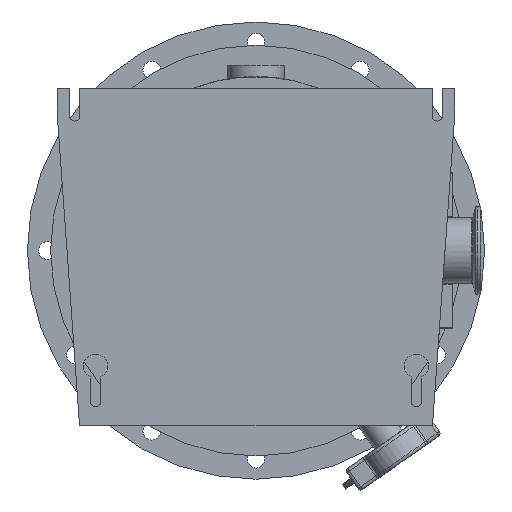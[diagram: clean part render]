
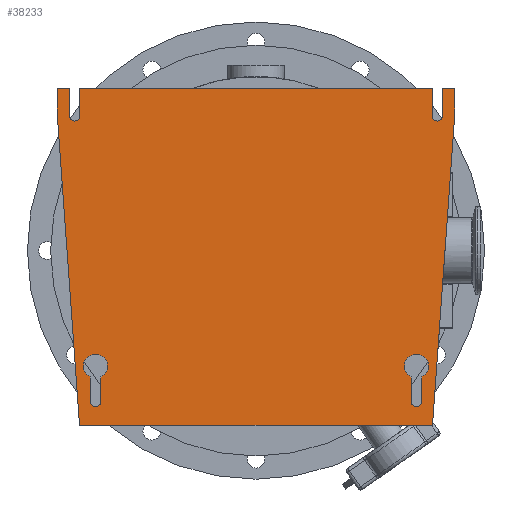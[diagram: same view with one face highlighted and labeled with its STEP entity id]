
A CAD part, front view. The second image highlights one B-rep face of the part: STEP entity #38233.
In plain terms, the highlighted planar face has unit normal (0, -1, 0).
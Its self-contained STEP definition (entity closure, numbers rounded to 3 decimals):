
#10369=DIRECTION('',(0.071,0.,-0.997));
#10370=VECTOR('',#10369,196.499);
#10371=CARTESIAN_POINT('',(-124.,-55.5,87.));
#10372=LINE('',#10371,#10370);
#10373=DIRECTION('',(0.,0.,-1.));
#10374=VECTOR('',#10373,14.);
#10375=CARTESIAN_POINT('',(-124.,-55.5,101.));
#10376=LINE('',#10375,#10374);
#10377=DIRECTION('',(-1.,0.,0.));
#10378=VECTOR('',#10377,7.75);
#10379=CARTESIAN_POINT('',(-116.25,-55.5,101.));
#10380=LINE('',#10379,#10378);
#10381=DIRECTION('',(0.,0.,1.));
#10382=VECTOR('',#10381,17.);
#10383=CARTESIAN_POINT('',(-116.25,-55.5,84.));
#10384=LINE('',#10383,#10382);
#10385=CARTESIAN_POINT('',(-113.,-55.5,84.));
#10386=DIRECTION('',(0.,1.,0.));
#10387=DIRECTION('',(1.,0.,0.));
#10388=AXIS2_PLACEMENT_3D('',#10385,#10386,#10387);
#10390=DIRECTION('',(0.,0.,-1.));
#10391=VECTOR('',#10390,17.);
#10392=CARTESIAN_POINT('',(-109.75,-55.5,101.));
#10393=LINE('',#10392,#10391);
#10394=DIRECTION('',(-1.,0.,0.));
#10395=VECTOR('',#10394,219.5);
#10396=CARTESIAN_POINT('',(109.75,-55.5,101.));
#10397=LINE('',#10396,#10395);
#10398=DIRECTION('',(0.,0.,1.));
#10399=VECTOR('',#10398,17.);
#10400=CARTESIAN_POINT('',(109.75,-55.5,84.));
#10401=LINE('',#10400,#10399);
#10402=CARTESIAN_POINT('',(113.,-55.5,84.));
#10403=DIRECTION('',(0.,1.,0.));
#10404=DIRECTION('',(1.,0.,0.));
#10405=AXIS2_PLACEMENT_3D('',#10402,#10403,#10404);
#10407=DIRECTION('',(0.,0.,-1.));
#10408=VECTOR('',#10407,17.);
#10409=CARTESIAN_POINT('',(116.25,-55.5,101.));
#10410=LINE('',#10409,#10408);
#10411=DIRECTION('',(-1.,0.,0.));
#10412=VECTOR('',#10411,7.75);
#10413=CARTESIAN_POINT('',(124.,-55.5,101.));
#10414=LINE('',#10413,#10412);
#10415=DIRECTION('',(0.,0.,1.));
#10416=VECTOR('',#10415,14.);
#10417=CARTESIAN_POINT('',(124.,-55.5,87.));
#10418=LINE('',#10417,#10416);
#10419=DIRECTION('',(0.071,0.,0.997));
#10420=VECTOR('',#10419,196.499);
#10421=CARTESIAN_POINT('',(110.,-55.5,-109.));
#10422=LINE('',#10421,#10420);
#10423=DIRECTION('',(1.,0.,0.));
#10424=VECTOR('',#10423,220.);
#10425=CARTESIAN_POINT('',(-110.,-55.5,-109.));
#10426=LINE('',#10425,#10424);
#10427=DIRECTION('',(0.,0.,1.));
#10428=VECTOR('',#10427,15.241);
#10429=CARTESIAN_POINT('',(-103.25,-55.5,-94.));
#10430=LINE('',#10429,#10428);
#10431=CARTESIAN_POINT('',(-100.,-55.5,-94.));
#10432=DIRECTION('',(0.,1.,0.));
#10433=DIRECTION('',(1.,0.,0.));
#10434=AXIS2_PLACEMENT_3D('',#10431,#10432,#10433);
#10436=DIRECTION('',(0.,0.,-1.));
#10437=VECTOR('',#10436,15.241);
#10438=CARTESIAN_POINT('',(-96.75,-55.5,-78.759));
#10439=LINE('',#10438,#10437);
#10440=CARTESIAN_POINT('',(-100.,-55.5,-72.));
#10441=DIRECTION('',(0.,1.,0.));
#10442=DIRECTION('',(-0.433,0.,-0.901));
#10443=AXIS2_PLACEMENT_3D('',#10440,#10441,#10442);
#10445=CARTESIAN_POINT('',(100.,-55.5,-72.));
#10446=DIRECTION('',(0.,1.,0.));
#10447=DIRECTION('',(-0.433,0.,-0.901));
#10448=AXIS2_PLACEMENT_3D('',#10445,#10446,#10447);
#10450=DIRECTION('',(0.,0.,1.));
#10451=VECTOR('',#10450,15.241);
#10452=CARTESIAN_POINT('',(96.75,-55.5,-94.));
#10453=LINE('',#10452,#10451);
#10454=CARTESIAN_POINT('',(100.,-55.5,-94.));
#10455=DIRECTION('',(0.,1.,0.));
#10456=DIRECTION('',(1.,0.,0.));
#10457=AXIS2_PLACEMENT_3D('',#10454,#10455,#10456);
#10459=DIRECTION('',(0.,0.,-1.));
#10460=VECTOR('',#10459,15.241);
#10461=CARTESIAN_POINT('',(103.25,-55.5,-78.759));
#10462=LINE('',#10461,#10460);
#14157=CARTESIAN_POINT('',(-124.,-55.5,87.));
#14158=CARTESIAN_POINT('',(-110.,-55.5,-109.));
#14159=VERTEX_POINT('',#14157);
#14160=VERTEX_POINT('',#14158);
#14161=CARTESIAN_POINT('',(110.,-55.5,-109.));
#14162=VERTEX_POINT('',#14161);
#14163=CARTESIAN_POINT('',(124.,-55.5,87.));
#14164=VERTEX_POINT('',#14163);
#14165=CARTESIAN_POINT('',(124.,-55.5,101.));
#14166=VERTEX_POINT('',#14165);
#14167=CARTESIAN_POINT('',(116.25,-55.5,101.));
#14168=VERTEX_POINT('',#14167);
#14169=CARTESIAN_POINT('',(116.25,-55.5,84.));
#14170=VERTEX_POINT('',#14169);
#14171=CARTESIAN_POINT('',(109.75,-55.5,84.));
#14172=VERTEX_POINT('',#14171);
#14173=CARTESIAN_POINT('',(109.75,-55.5,101.));
#14174=VERTEX_POINT('',#14173);
#14175=CARTESIAN_POINT('',(-109.75,-55.5,101.));
#14176=VERTEX_POINT('',#14175);
#14177=CARTESIAN_POINT('',(-109.75,-55.5,84.));
#14178=VERTEX_POINT('',#14177);
#14179=CARTESIAN_POINT('',(-116.25,-55.5,84.));
#14180=VERTEX_POINT('',#14179);
#14181=CARTESIAN_POINT('',(-116.25,-55.5,101.));
#14182=VERTEX_POINT('',#14181);
#14183=CARTESIAN_POINT('',(-124.,-55.5,101.));
#14184=VERTEX_POINT('',#14183);
#14185=CARTESIAN_POINT('',(-103.25,-55.5,-94.));
#14186=CARTESIAN_POINT('',(-103.25,-55.5,-78.759));
#14187=VERTEX_POINT('',#14185);
#14188=VERTEX_POINT('',#14186);
#14189=CARTESIAN_POINT('',(-96.75,-55.5,-78.759));
#14190=VERTEX_POINT('',#14189);
#14191=CARTESIAN_POINT('',(-96.75,-55.5,-94.));
#14192=VERTEX_POINT('',#14191);
#14193=CARTESIAN_POINT('',(96.75,-55.5,-78.759));
#14194=CARTESIAN_POINT('',(103.25,-55.5,-78.759));
#14195=VERTEX_POINT('',#14193);
#14196=VERTEX_POINT('',#14194);
#14197=CARTESIAN_POINT('',(103.25,-55.5,-94.));
#14198=VERTEX_POINT('',#14197);
#14199=CARTESIAN_POINT('',(96.75,-55.5,-94.));
#14200=VERTEX_POINT('',#14199);
#38182=CARTESIAN_POINT('',(0.,-55.5,0.));
#38183=DIRECTION('',(0.,-1.,0.));
#38184=DIRECTION('',(-1.,0.,0.));
#38185=AXIS2_PLACEMENT_3D('',#38182,#38183,#38184);
#38186=PLANE('',#38185);
#38188=ORIENTED_EDGE('',*,*,#38187,.F.);
#38190=ORIENTED_EDGE('',*,*,#38189,.F.);
#38192=ORIENTED_EDGE('',*,*,#38191,.F.);
#38194=ORIENTED_EDGE('',*,*,#38193,.F.);
#38196=ORIENTED_EDGE('',*,*,#38195,.F.);
#38198=ORIENTED_EDGE('',*,*,#38197,.F.);
#38200=ORIENTED_EDGE('',*,*,#38199,.F.);
#38202=ORIENTED_EDGE('',*,*,#38201,.F.);
#38204=ORIENTED_EDGE('',*,*,#38203,.F.);
#38206=ORIENTED_EDGE('',*,*,#38205,.F.);
#38208=ORIENTED_EDGE('',*,*,#38207,.F.);
#38210=ORIENTED_EDGE('',*,*,#38209,.F.);
#38212=ORIENTED_EDGE('',*,*,#38211,.F.);
#38214=ORIENTED_EDGE('',*,*,#38213,.F.);
#38215=EDGE_LOOP('',(#38188,#38190,#38192,#38194,#38196,#38198,#38200,#38202,
#38204,#38206,#38208,#38210,#38212,#38214));
#38216=FACE_OUTER_BOUND('',#38215,.F.);
#38217=ORIENTED_EDGE('',*,*,#38134,.F.);
#38218=ORIENTED_EDGE('',*,*,#38149,.F.);
#38219=ORIENTED_EDGE('',*,*,#38163,.F.);
#38220=ORIENTED_EDGE('',*,*,#38176,.F.);
#38221=EDGE_LOOP('',(#38217,#38218,#38219,#38220));
#38222=FACE_BOUND('',#38221,.F.);
#38224=ORIENTED_EDGE('',*,*,#38223,.F.);
#38226=ORIENTED_EDGE('',*,*,#38225,.F.);
#38228=ORIENTED_EDGE('',*,*,#38227,.F.);
#38230=ORIENTED_EDGE('',*,*,#38229,.F.);
#38231=EDGE_LOOP('',(#38224,#38226,#38228,#38230));
#38232=FACE_BOUND('',#38231,.F.);
#38233=ADVANCED_FACE('',(#38216,#38222,#38232),#38186,.T.);
#10389=CIRCLE('',#10388,3.25);
#10406=CIRCLE('',#10405,3.25);
#10435=CIRCLE('',#10434,3.25);
#10444=CIRCLE('',#10443,7.5);
#10449=CIRCLE('',#10448,7.5);
#10458=CIRCLE('',#10457,3.25);
#38134=EDGE_CURVE('',#14187,#14188,#10430,.T.);
#38149=EDGE_CURVE('',#14192,#14187,#10435,.T.);
#38163=EDGE_CURVE('',#14190,#14192,#10439,.T.);
#38176=EDGE_CURVE('',#14188,#14190,#10444,.T.);
#38187=EDGE_CURVE('',#14159,#14160,#10372,.T.);
#38189=EDGE_CURVE('',#14184,#14159,#10376,.T.);
#38191=EDGE_CURVE('',#14182,#14184,#10380,.T.);
#38193=EDGE_CURVE('',#14180,#14182,#10384,.T.);
#38195=EDGE_CURVE('',#14178,#14180,#10389,.T.);
#38197=EDGE_CURVE('',#14176,#14178,#10393,.T.);
#38199=EDGE_CURVE('',#14174,#14176,#10397,.T.);
#38201=EDGE_CURVE('',#14172,#14174,#10401,.T.);
#38203=EDGE_CURVE('',#14170,#14172,#10406,.T.);
#38205=EDGE_CURVE('',#14168,#14170,#10410,.T.);
#38207=EDGE_CURVE('',#14166,#14168,#10414,.T.);
#38209=EDGE_CURVE('',#14164,#14166,#10418,.T.);
#38211=EDGE_CURVE('',#14162,#14164,#10422,.T.);
#38213=EDGE_CURVE('',#14160,#14162,#10426,.T.);
#38223=EDGE_CURVE('',#14195,#14196,#10449,.T.);
#38225=EDGE_CURVE('',#14200,#14195,#10453,.T.);
#38227=EDGE_CURVE('',#14198,#14200,#10458,.T.);
#38229=EDGE_CURVE('',#14196,#14198,#10462,.T.);
